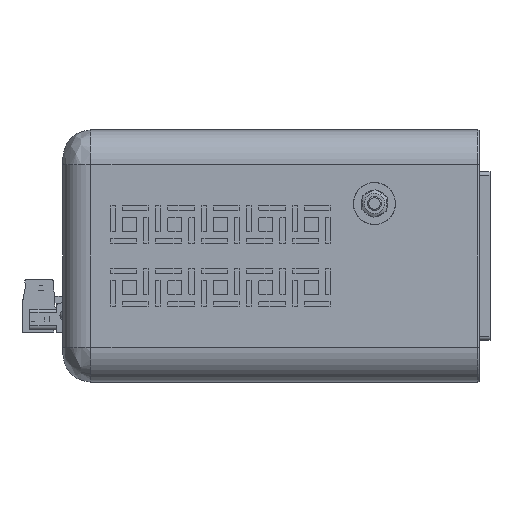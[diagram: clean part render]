
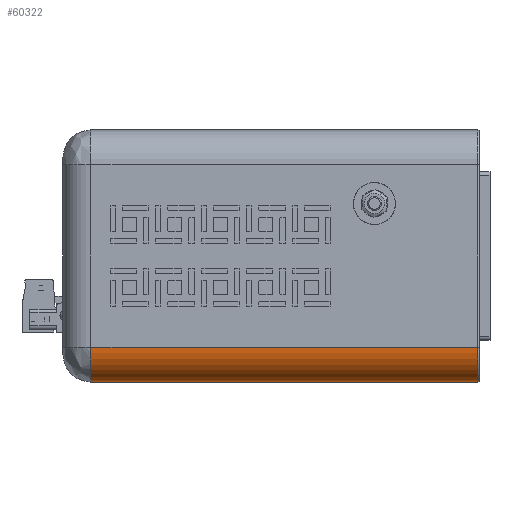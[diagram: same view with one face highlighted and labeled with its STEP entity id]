
A CAD part, front view. The second image highlights one B-rep face of the part: STEP entity #60322.
In plain terms, the highlighted cylindrical face has radius 10 mm (diameter 20 mm), a partial arc.
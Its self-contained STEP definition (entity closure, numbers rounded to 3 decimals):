
#5042=FACE_OUTER_BOUND('',#8260,.T.);
#8260=EDGE_LOOP('',(#45571,#45572,#45573,#45574));
#11454=CIRCLE('',#64600,10.);
#11477=CIRCLE('',#64640,10.);
#15385=LINE('',#104860,#21219);
#15386=LINE('',#104863,#21220);
#21219=VECTOR('',#75648,10.);
#21220=VECTOR('',#75651,10.);
#27098=VERTEX_POINT('',#104761);
#27100=VERTEX_POINT('',#104767);
#27128=VERTEX_POINT('',#104859);
#27129=VERTEX_POINT('',#104861);
#34215=EDGE_CURVE('',#27100,#27098,#11454,.T.);
#34261=EDGE_CURVE('',#27100,#27128,#15385,.T.);
#34262=EDGE_CURVE('',#27129,#27128,#11477,.T.);
#34263=EDGE_CURVE('',#27129,#27098,#15386,.T.);
#45571=ORIENTED_EDGE('',*,*,#34215,.F.);
#45572=ORIENTED_EDGE('',*,*,#34261,.T.);
#45573=ORIENTED_EDGE('',*,*,#34262,.F.);
#45574=ORIENTED_EDGE('',*,*,#34263,.T.);
#55280=CYLINDRICAL_SURFACE('',#64639,10.);
#60322=ADVANCED_FACE('',(#5042),#55280,.T.);
#64600=AXIS2_PLACEMENT_3D('',#104769,#75545,#75546);
#64639=AXIS2_PLACEMENT_3D('',#104858,#75646,#75647);
#64640=AXIS2_PLACEMENT_3D('',#104862,#75649,#75650);
#75545=DIRECTION('center_axis',(1.,0.,0.));
#75546=DIRECTION('ref_axis',(0.,-0.707,-0.707));
#75646=DIRECTION('center_axis',(1.,0.,0.));
#75647=DIRECTION('ref_axis',(0.,-0.707,-0.707));
#75648=DIRECTION('',(-1.,0.,0.));
#75649=DIRECTION('center_axis',(-1.,0.,0.));
#75650=DIRECTION('ref_axis',(0.,-0.707,-0.707));
#75651=DIRECTION('',(1.,0.,0.));
#104761=CARTESIAN_POINT('',(66.35,-70.,-36.));
#104767=CARTESIAN_POINT('',(66.35,-80.,-26.));
#104769=CARTESIAN_POINT('Origin',(66.35,-70.,-26.));
#104858=CARTESIAN_POINT('Origin',(-52.15,-70.,-26.));
#104859=CARTESIAN_POINT('',(-44.15,-80.,-26.));
#104860=CARTESIAN_POINT('',(-52.15,-80.,-26.));
#104861=CARTESIAN_POINT('',(-44.15,-70.,-36.));
#104862=CARTESIAN_POINT('Origin',(-44.15,-70.,-26.));
#104863=CARTESIAN_POINT('',(-52.15,-70.,-36.));
